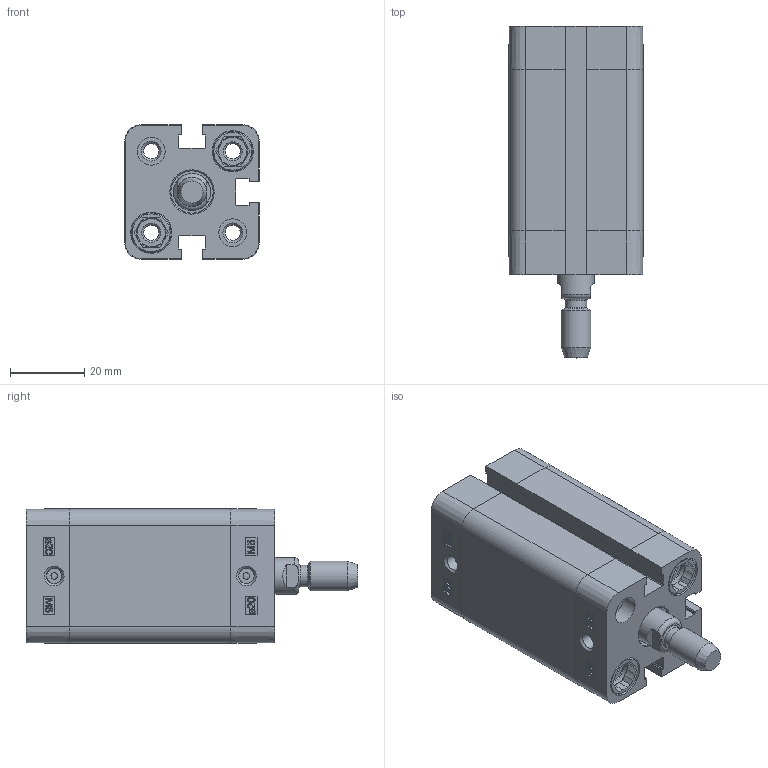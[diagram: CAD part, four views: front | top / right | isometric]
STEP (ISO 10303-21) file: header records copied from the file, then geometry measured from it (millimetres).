
FILE_DESCRIPTION((''),'2;1');
FILE_NAME('T:\Archivio Inventor\- CATALOGHI 2012\SERIE P - NUOVA\PDM\PDM020\PDM020.---.GS.M\STEP\PDM020.030.GS.M.stp','2013-01-30T10:56:09',('Administrator'),(''),'Autodesk Inventor 2012','Autodesk Inventor 2012','');
FILE_SCHEMA(('CONFIG_CONTROL_DESIGN'));
Length unit declared in the file: millimetre
Products named in the file (1): PDM020.030.GS.M
Bounding box: 36.3 x 89.6 x 36.3 mm (x, y, z)
Volume: 51033.9 mm3; surface area: 28789.6 mm2
Topology: 1 solids, 3 shells, 489 faces, 1225 edges, 798 vertices
Faces by surface type: plane 245, bspline 94, cylinder 88, cone 50, torus 12
Full cylindrical faces by diameter (mm): 1.75 x2, 4.134 x10, 5.8 x1, 7.5 x4, 7.55 x2, 8 x9, 9 x1, 10 x1, 10.8 x4, 11.1 x4, 11.4 x1, 20 x1, 22.3 x1, 22.5 x1
Entity records: 15051 total; most frequent: CARTESIAN_POINT 3734, ORIENTED_EDGE 2232, DIRECTION 1950, EDGE_CURVE 1116, VERTEX_POINT 782, VECTOR 670, LINE 670, EDGE_LOOP 652
